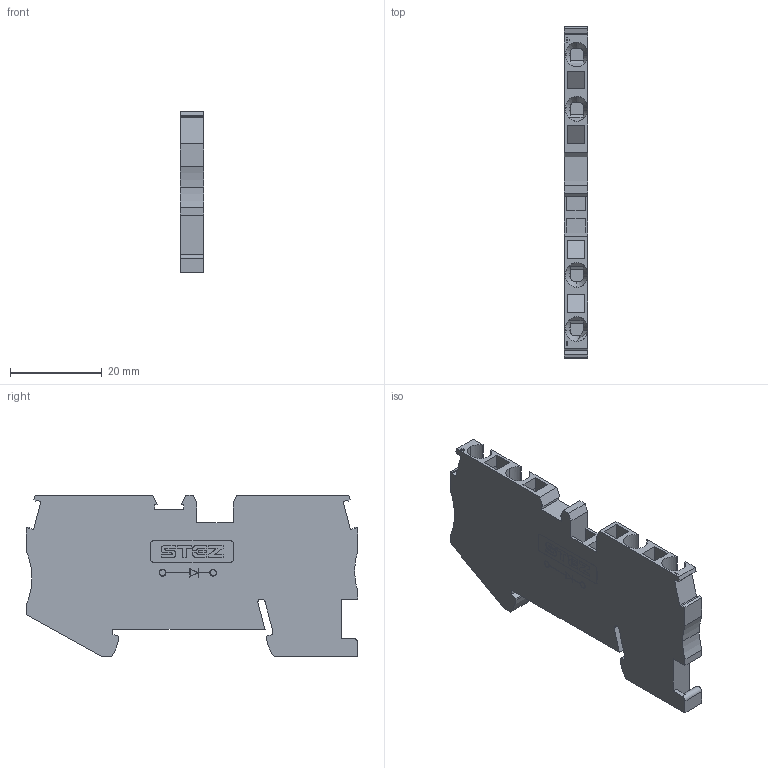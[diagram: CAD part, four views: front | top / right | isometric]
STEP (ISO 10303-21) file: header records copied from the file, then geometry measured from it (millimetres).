
FILE_DESCRIPTION(('TFLEX Exchange Step'),'2;1');
FILE_NAME('10200085 КНЗ 2,5-4-Д П-Л.stp', '2024-02-27T09:14:17+03:00',('APolyakov'),('Unknown organisation'),'TFLEX Exchange 2023.2','T-FLEX CAD','Unknown authorisation');
FILE_SCHEMA( ('AUTOMOTIVE_DESIGN { 1 0 10303 214 1 1 1 1 }') );
Length unit declared in the file: millimetre
Products named in the file (1): Тело_1:1
Bounding box: 5.15 x 72.2 x 35.25 mm (x, y, z)
Volume: 9306 mm3; surface area: 7030.2 mm2
Topology: 1 solids, 1 shells, 466 faces, 1326 edges, 877 vertices
Faces by surface type: plane 236, cylinder 214, cone 16
Entity records: 16157 total; most frequent: CARTESIAN_POINT 3893, ORIENTED_EDGE 2648, DIRECTION 2521, EDGE_CURVE 1324, AXIS2_PLACEMENT_3D 886, VERTEX_POINT 877, VECTOR 749, LINE 749
